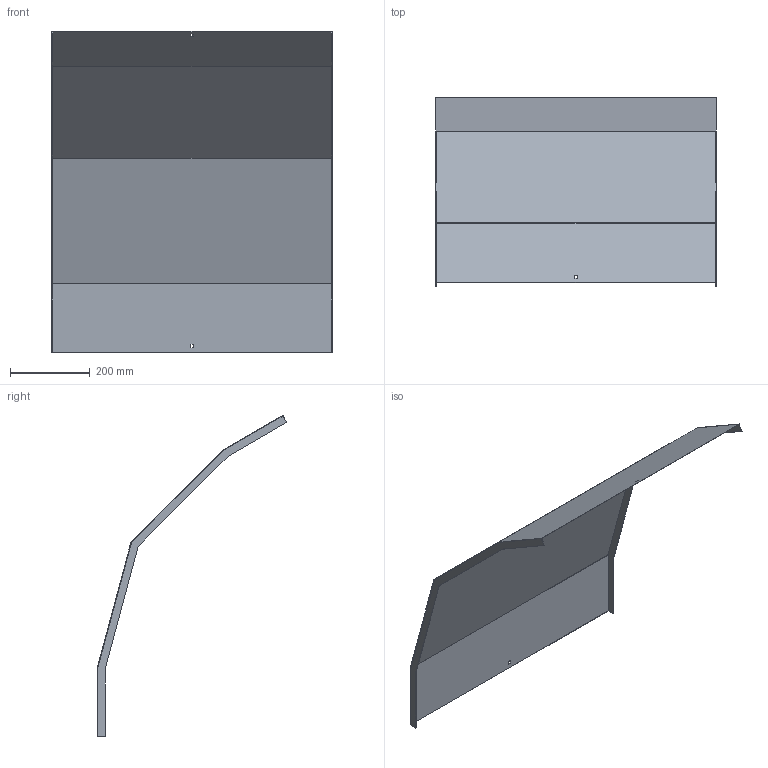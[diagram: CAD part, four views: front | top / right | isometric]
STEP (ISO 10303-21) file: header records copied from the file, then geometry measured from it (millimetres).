
FILE_DESCRIPTION (( 'STEP AP214' ), '1' );
FILE_NAME ('41N5F700.step', '2025-02-21T14:25:25', ( '' ), ( '' ), 'SwSTEP 2.0', 'SolidWorks 2023', '' );
FILE_SCHEMA (( 'AUTOMOTIVE_DESIGN' ));
Length unit declared in the file: millimetre
Products named in the file (1): 41N5F700
Bounding box: 703 x 475.35 x 806.02 mm (x, y, z)
Volume: 1107518 mm3; surface area: 1481940 mm2
Topology: 1 solids, 1 shells, 30 faces, 84 edges, 56 vertices
Faces by surface type: plane 30
Entity records: 979 total; most frequent: CARTESIAN_POINT 171, ORIENTED_EDGE 168, DIRECTION 146, LINE 84, VECTOR 84, EDGE_CURVE 84, VERTEX_POINT 56, EDGE_LOOP 34
